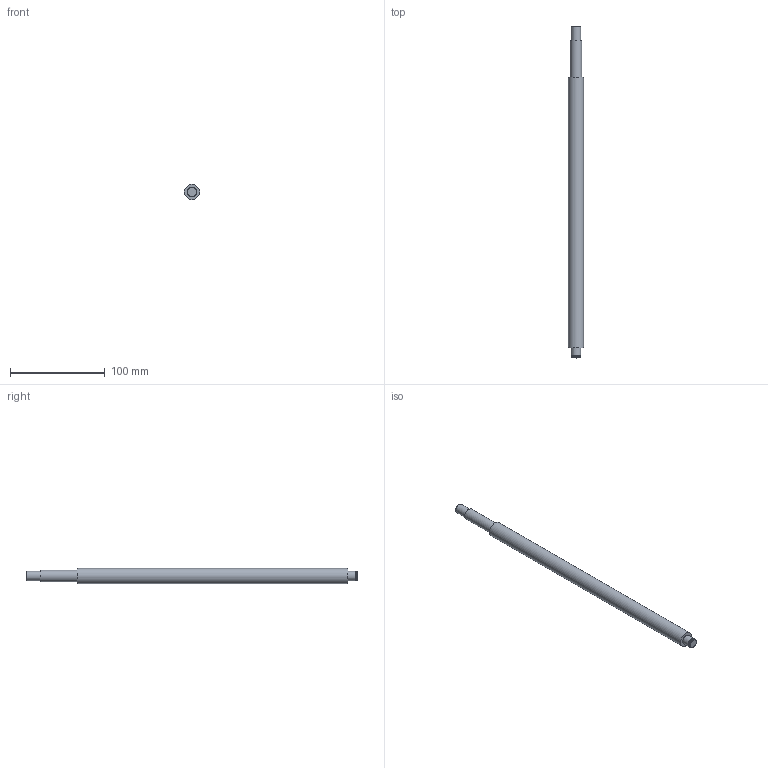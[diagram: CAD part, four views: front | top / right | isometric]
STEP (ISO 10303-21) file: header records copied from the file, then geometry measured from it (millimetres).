
FILE_DESCRIPTION(/* description */ (''),/* implementation_level */ '2;1');
FILE_NAME(/* name */ 'C:\Users\David\Desktop\stepFiles\Profilfuehrung\KUS1605x350.stp',/* time_stamp */ '2018-06-24T15:08:44+02:00',/* author */ ('David'),/* organization */ (''),/* preprocessor_version */ 'ST-DEVELOPER v17',/* originating_system */ 'Autodesk Inventor 2019',/* authorisation */ '');
FILE_SCHEMA (('AUTOMOTIVE_DESIGN { 1 0 10303 214 3 1 1 }'));
Length unit declared in the file: millimetre
Products named in the file (1): SFU1605xvariabel
Bounding box: 16 x 350 x 16 mm (x, y, z)
Volume: 63740.8 mm3; surface area: 17006.7 mm2
Topology: 1 solids, 1 shells, 15 faces, 34 edges, 26 vertices
Faces by surface type: plane 7, cylinder 6, cone 2
Full cylindrical faces by diameter (mm): 9.6 x1, 10 x3, 12 x1, 16 x1
Entity records: 493 total; most frequent: DIRECTION 92, CARTESIAN_POINT 76, ORIENTED_EDGE 68, AXIS2_PLACEMENT_3D 42, EDGE_CURVE 34, CIRCLE 26, VERTEX_POINT 26, EDGE_LOOP 20
